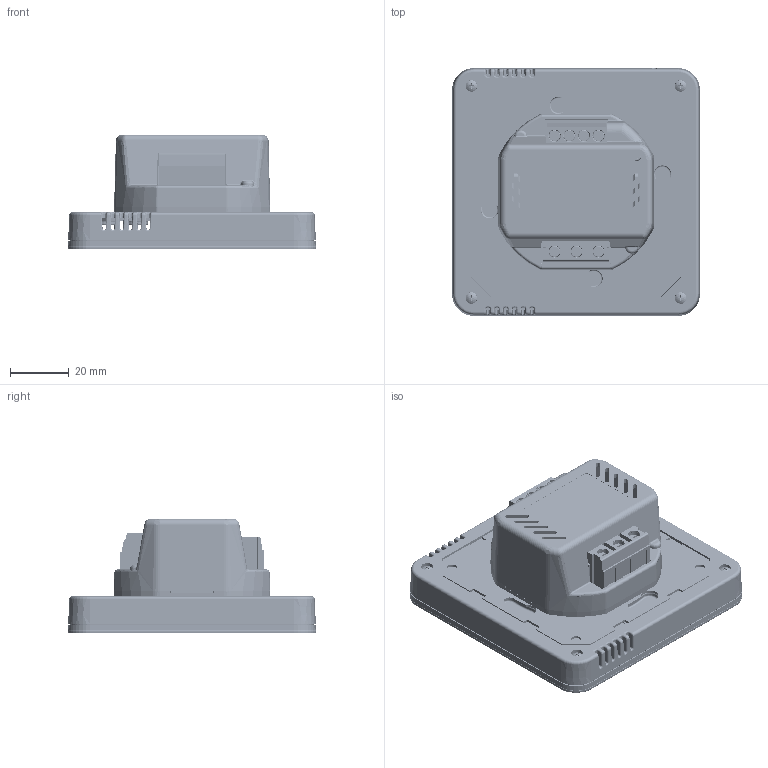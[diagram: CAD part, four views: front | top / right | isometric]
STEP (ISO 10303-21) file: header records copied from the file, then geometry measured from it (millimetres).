
FILE_DESCRIPTION(/* description */ ('','CAx-IF Rec.Pracs.---Representation and Presentation of Product Manufacturing Information (PMI)---4.0---2014-10-13'),/* implementation_level */ '2;1');
FILE_NAME(/* name */ 'WS-01m.step',/* time_stamp */ '2025-02-21T13:32:17+01:00',/* author */ (''),/* organization */ (''),/* preprocessor_version */ 'ST-DEVELOPER v20',/* originating_system */ 'Autodesk Translation Framework v13.20.0.188',/* authorisation */ '');
FILE_SCHEMA (('AP242_MANAGED_MODEL_BASED_3D_ENGINEERING_MIM_LF { 1 0 10303 442 1 1 4 }'));
Products named in the file (17): przełącznik szklany; PŁYTKA _dotyk_podswietlana; szkło; OP-1020_C; switch kątowy cienk2i; tył klawisz; OP-1398_C; Blacha1.2; DIN ISO 7049 - C-H ST2.2 x 9.5 - C - H; LOGO; WS-01  FARBA; OP-1399_K; FOB08D880ED1gk8; PODSWIETLENIE; Wkręt do tworzyw 2,2x6; DG128-5.0-02P-14-00AH; OP-1020_D
Assembly tree (23 placements, depth 3):
  przełącznik szklany
    PŁYTKA _dotyk_podswietlana
    szkło
    OP-1020_C
    switch kątowy cienk2i
    PODSWIETLENIE  x3
    tył klawisz
      OP-1398_C
      Blacha1.2
      DIN ISO 7049 - C-H ST2.2 x 9.5 - C - H  x2
    Wkręt do tworzyw 2,2x6  x4
    LOGO
    WS-01  FARBA
    OP-1399_K
    DG128-5.0-02P-14-00AH  x2
    FOB08D880ED1gk8
    OP-1020_D
Bounding box: 84.5 x 84.5 x 38.92 mm (x, y, z)
Volume: 66509.5 mm3; surface area: 107241.9 mm2
Topology: 40 solids, 40 shells, 9686 faces, 27462 edges, 18077 vertices
Faces by surface type: cone 5005, plane 2668, bspline 1125, cylinder 607, torus 248, sphere 33
Full cylindrical faces by diameter (mm): 0.1 x1, 0.8 x2, 0.9 x1, 1 x6, 1.43 x4, 2 x9, 2.2 x6, 2.3 x4, 2.4 x2, 2.9 x3, 3 x1, 3.5 x4, 4 x8, 4.099 x6, 4.1 x8, 4.6 x2, 6 x1
Entity records: 202108 total; most frequent: CARTESIAN_POINT 63811, ORIENTED_EDGE 28440, DIRECTION 25990, EDGE_CURVE 14220, VERTEX_POINT 10320, AXIS2_PLACEMENT_3D 8665, LINE 8660, VECTOR 8660
